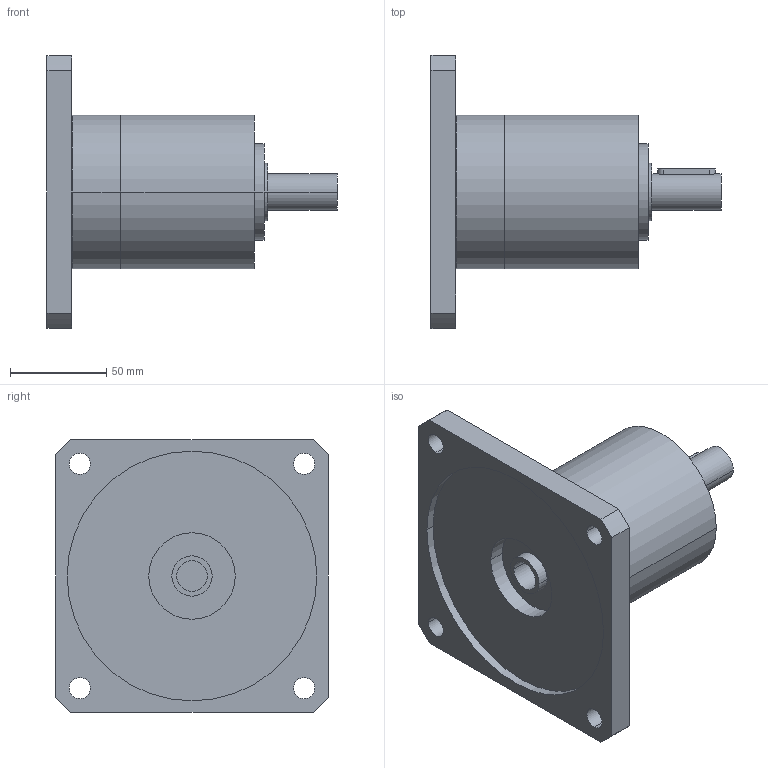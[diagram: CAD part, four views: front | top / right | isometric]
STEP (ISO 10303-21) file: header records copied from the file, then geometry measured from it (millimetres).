
FILE_DESCRIPTION(('CoCreate Modeling STEP Export'),'2;1');
FILE_NAME('GPR100_ig-3-4-5-6_19_B14_16_P16.stp','2014-08-26T10:08:13',(''),(''),'CoCreate Modeling STEP processor for AP214 (Solid Model)','CoCreate Modeling 16.00C 25-Feb-2009 (C) Parametric Technology GmbH','');
FILE_SCHEMA(('AUTOMOTIVE_DESIGN { 1 0 10303 214 1 1 1 1 }'));
Length unit declared in the file: millimetre
Products named in the file (2): GPR100_ig-3-4-5-6_19_B14_16_P16
Assembly tree (1 placements, depth 2):
  GPR100_ig-3-4-5-6_19_B14_16_P16
    GPR100_ig-3-4-5-6_19_B14_16_P16
Bounding box: 151 x 142 x 142 mm (x, y, z)
Volume: 674466.6 mm3; surface area: 82479.5 mm2
Topology: 1 solids, 1 shells, 70 faces, 187 edges, 131 vertices
Faces by surface type: cylinder 42, plane 22, cone 6
Entity records: 1934 total; most frequent: ORIENTED_EDGE 370, CARTESIAN_POINT 359, DIRECTION 262, EDGE_CURVE 185, VERTEX_POINT 131, AXIS2_PLACEMENT_3D 98, EDGE_LOOP 92, FACE_OUTER_BOUND 70
